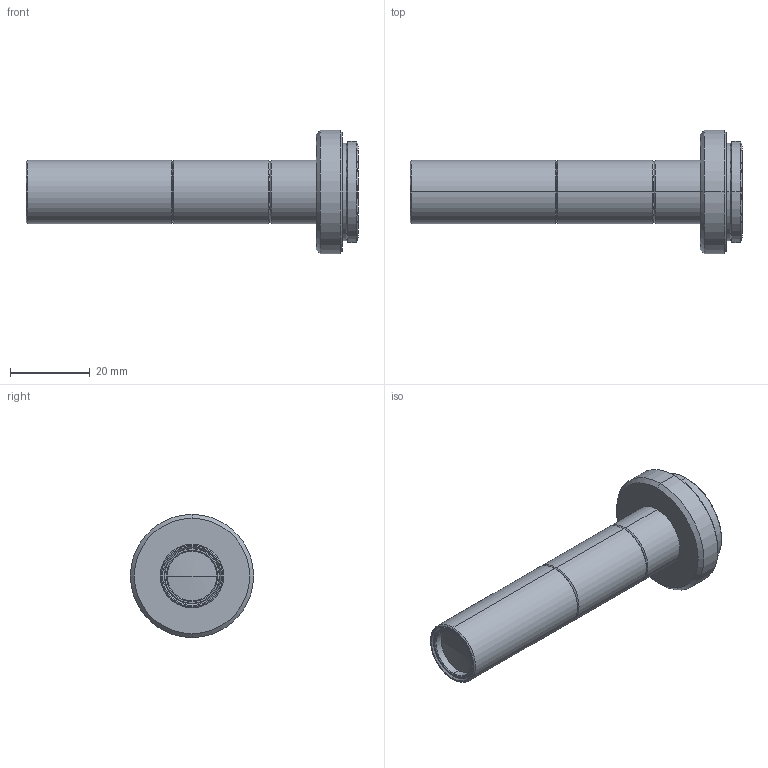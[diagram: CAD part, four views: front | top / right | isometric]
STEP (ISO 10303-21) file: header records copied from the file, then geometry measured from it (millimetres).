
FILE_DESCRIPTION (( 'STEP AP203' ), '1' );
FILE_NAME ('VS-TC1-110.STEP', '2020-02-13T01:07:47', ( '' ), ( '' ), 'SwSTEP 2.0', 'SolidWorks 2017', '' );
FILE_SCHEMA (( 'CONFIG_CONTROL_DESIGN' ));
Length unit declared in the file: millimetre
Products named in the file (1): VS-TC1-110
Bounding box: 83.47 x 31 x 31 mm (x, y, z)
Volume: 18990.5 mm3; surface area: 6684.6 mm2
Topology: 1 solids, 1 shells, 80 faces, 162 edges, 94 vertices
Faces by surface type: cone 38, cylinder 28, plane 10, sphere 4
Entity records: 2163 total; most frequent: DIRECTION 420, CARTESIAN_POINT 337, ORIENTED_EDGE 324, AXIS2_PLACEMENT_3D 177, EDGE_CURVE 162, CIRCLE 96, VERTEX_POINT 94, EDGE_LOOP 90
